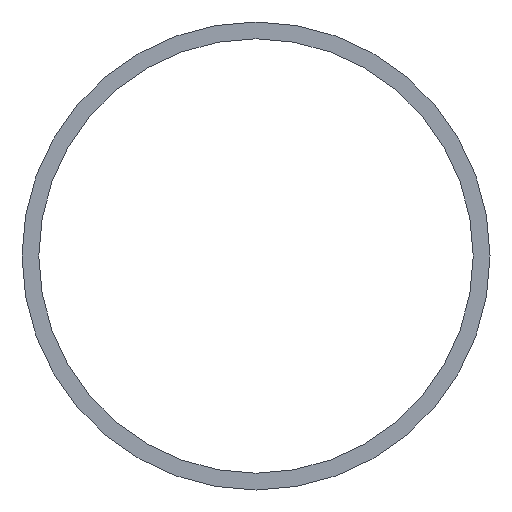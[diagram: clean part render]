
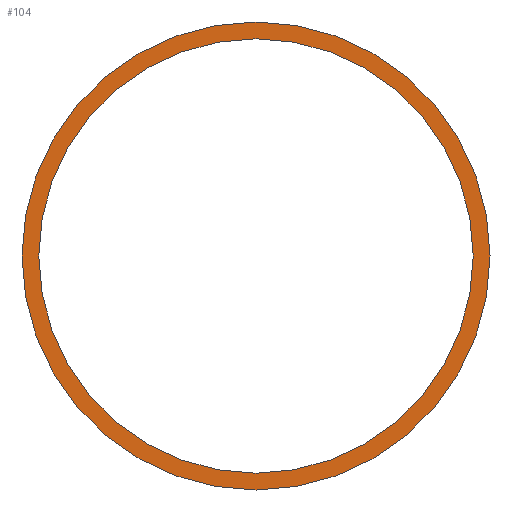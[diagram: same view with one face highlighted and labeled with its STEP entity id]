
A CAD part, front view. The second image highlights one B-rep face of the part: STEP entity #104.
In plain terms, the highlighted planar face has unit normal (0, -1, 0).
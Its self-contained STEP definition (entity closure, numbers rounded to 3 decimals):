
#96=PLANE('',#195);
#99=FACE_BOUND('',#119,.T.);
#100=FACE_BOUND('',#120,.T.);
#104=ADVANCED_FACE('',(#99,#100),#96,.F.);
#119=EDGE_LOOP('',(#143,#144));
#120=EDGE_LOOP('',(#145,#146));
#143=ORIENTED_EDGE('',*,*,#173,.F.);
#144=ORIENTED_EDGE('',*,*,#169,.F.);
#145=ORIENTED_EDGE('',*,*,#165,.T.);
#146=ORIENTED_EDGE('',*,*,#174,.T.);
#157=VERTEX_POINT('',#237);
#158=VERTEX_POINT('',#239);
#161=VERTEX_POINT('',#246);
#162=VERTEX_POINT('',#248);
#165=EDGE_CURVE('',#158,#157,#176,.T.);
#169=EDGE_CURVE('',#161,#162,#178,.T.);
#173=EDGE_CURVE('',#162,#161,#181,.T.);
#174=EDGE_CURVE('',#157,#158,#182,.T.);
#176=CIRCLE('',#185,23.25);
#178=CIRCLE('',#188,25.05);
#181=CIRCLE('',#193,25.05);
#182=CIRCLE('',#194,23.25);
#185=AXIS2_PLACEMENT_3D('',#238,#203,#204);
#188=AXIS2_PLACEMENT_3D('',#247,#211,#212);
#193=AXIS2_PLACEMENT_3D('',#254,#222,#223);
#194=AXIS2_PLACEMENT_3D('',#255,#224,#225);
#195=AXIS2_PLACEMENT_3D('',#256,#226,#227);
#203=DIRECTION('',(0.,1.,0.));
#204=DIRECTION('',(0.,0.,1.));
#211=DIRECTION('',(0.,1.,0.));
#212=DIRECTION('',(0.,0.,1.));
#222=DIRECTION('',(0.,1.,0.));
#223=DIRECTION('',(0.,0.,1.));
#224=DIRECTION('',(0.,1.,0.));
#225=DIRECTION('',(0.,0.,1.));
#226=DIRECTION('',(0.,1.,0.));
#227=DIRECTION('',(0.,0.,-1.));
#237=CARTESIAN_POINT('',(0.,0.,23.25));
#238=CARTESIAN_POINT('',(0.,0.,0.));
#239=CARTESIAN_POINT('',(0.,0.,-23.25));
#246=CARTESIAN_POINT('',(0.,0.,25.05));
#247=CARTESIAN_POINT('',(0.,0.,0.));
#248=CARTESIAN_POINT('',(0.,0.,-25.05));
#254=CARTESIAN_POINT('',(0.,0.,0.));
#255=CARTESIAN_POINT('',(0.,0.,0.));
#256=CARTESIAN_POINT('',(0.,0.,0.));
